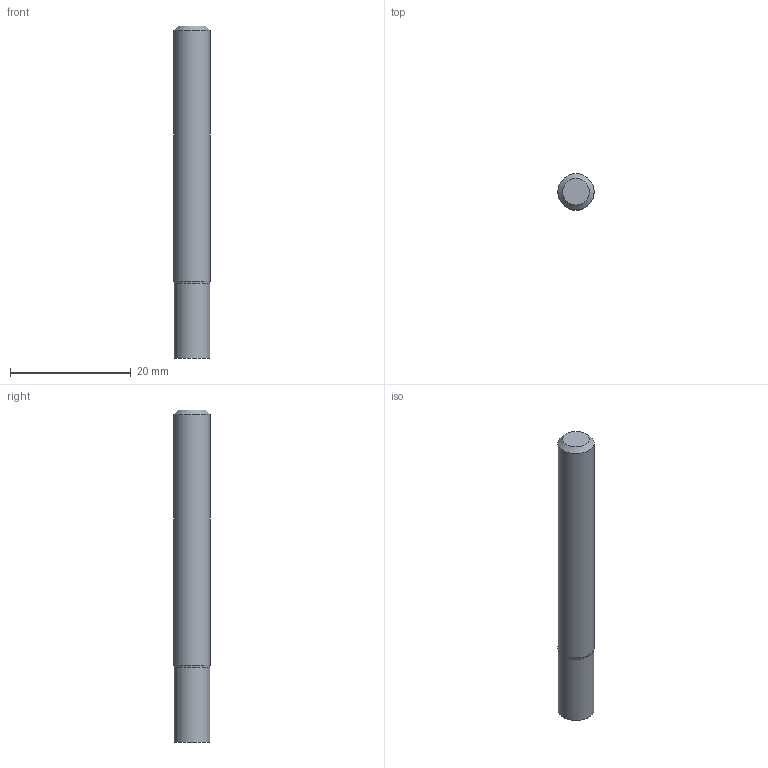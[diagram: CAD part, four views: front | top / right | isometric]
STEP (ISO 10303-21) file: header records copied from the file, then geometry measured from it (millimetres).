
FILE_DESCRIPTION((''),'2;1');
FILE_NAME('C:\Users\nsx150\AppData\Local\Temp\Mastercam 2021\98T1Q6BTT1\TEMP.step','2021-10-21T14:49:00',(''),(''),'STEP Write','Mastercam 2021 ... CNC Software, Inc.','');
FILE_SCHEMA(('AUTOMOTIVE_DESIGN'));
Length unit declared in the file: millimetre
Products named in the file (1): None
Bounding box: 6 x 6 x 55 mm (x, y, z)
Volume: 1537.9 mm3; surface area: 1133.5 mm2
Topology: 2 solids, 2 shells, 8 faces, 10 edges, 6 vertices
Faces by surface type: plane 4, cylinder 2, cone 2
Full cylindrical faces by diameter (mm): 5.9 x1, 6 x1
Entity records: 190 total; most frequent: DIRECTION 32, CARTESIAN_POINT 22, AXIS2_PLACEMENT_3D 16, ORIENTED_EDGE 12, EDGE_LOOP 12, STYLED_ITEM 11, ADVANCED_FACE 8, VERTEX_POINT 6
